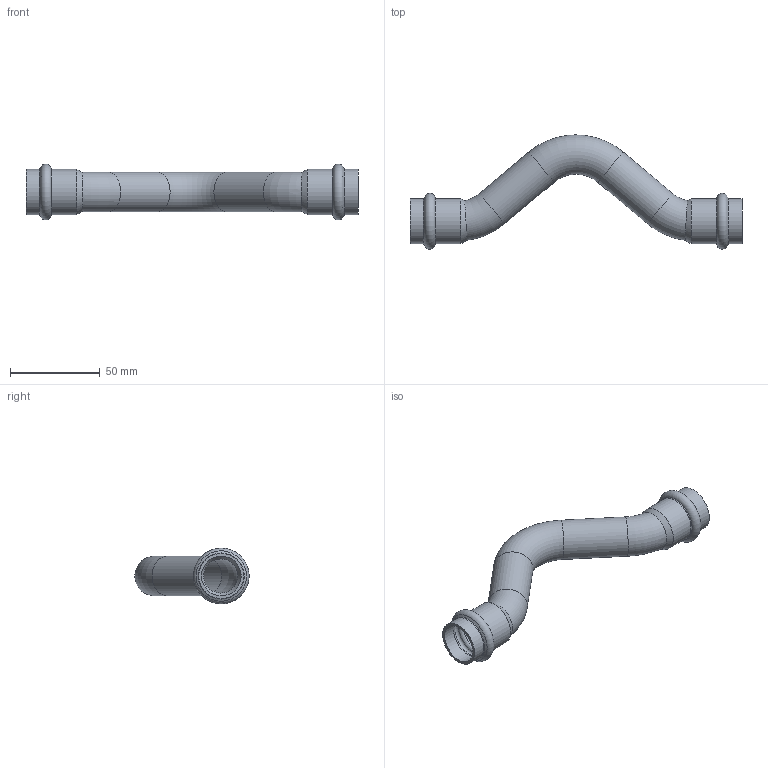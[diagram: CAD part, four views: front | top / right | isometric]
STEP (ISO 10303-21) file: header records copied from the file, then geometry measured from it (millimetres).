
FILE_DESCRIPTION((''),'2;1');
FILE_NAME('G:\Technics\CAD\Bauteile\022\6908522(0).stp','2008-02-20T14:49:12',('herberg'),(''),'Autodesk Inventor 2008','Autodesk Inventor 2008','');
FILE_SCHEMA(('AUTOMOTIVE_DESIGN { 1 0 10303 214 1 1 1 1 }'));
Length unit declared in the file: millimetre
Products named in the file (1): 6908522(0)
Bounding box: 185 x 63.68 x 31.09 mm (x, y, z)
Volume: 22039.3 mm3; surface area: 29607.9 mm2
Topology: 1 solids, 1 shells, 40 faces, 88 edges, 50 vertices
Faces by surface type: cylinder 12, torus 10, bspline 8, cone 8, plane 2
Full cylindrical faces by diameter (mm): 19 x2, 22 x2, 22.15 x4, 25.15 x4
Entity records: 1282 total; most frequent: CARTESIAN_POINT 613, DIRECTION 138, ORIENTED_EDGE 80, EDGE_LOOP 80, AXIS2_PLACEMENT_3D 69, VERTEX_POINT 40, EDGE_CURVE 40, FACE_OUTER_BOUND 40
